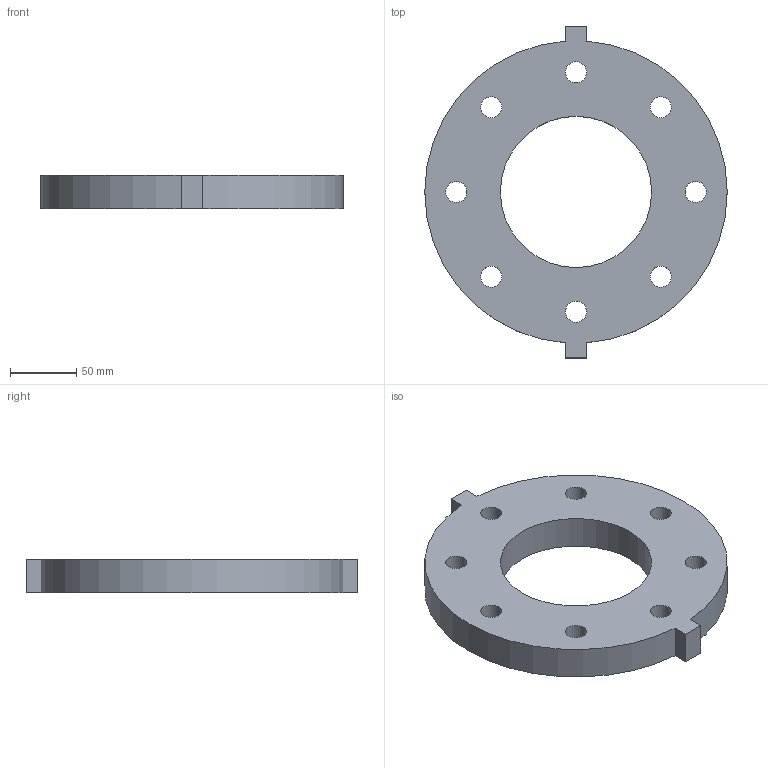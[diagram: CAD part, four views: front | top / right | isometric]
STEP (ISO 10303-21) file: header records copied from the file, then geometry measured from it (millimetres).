
FILE_DESCRIPTION(/* description */ ('VIC FLANGE ADAPTER STYLE 741 PN16 Flanges','CAx-IF Rec.Pracs.---Representation and Presentation of Product Manufacturing Information (PMI)---4.0---2014-10-13'),/* implementation_level */ '2;1');
FILE_NAME(/* name */ 'C:\Users\kkamble\AppData\Roaming\Autodesk\ApplicationPlugins\Back Up\Victaulic_IPS_Flange Adapter_PN16_Style 741 (OGSxFLG)\Victaulic_IPS_Flange Adapter_PN16_Style 741 (OGSxFLG)_4 (100).stp',/* time_stamp */ '2020-07-24T08:16:41+06:00',/* author */ ('jheald'),/* organization */ ('Victaulic'),/* preprocessor_version */ 'ST-DEVELOPER v17.2',/* originating_system */ 'Autodesk Inventor 2019',/* authorisation */ '');
FILE_SCHEMA (('AP242_MANAGED_MODEL_BASED_3D_ENGINEERING_MIM_LF { 1 0 10303 442 1 1 4 }'));
Length unit declared in the file: inch
Products named in the file (1): 741-04.0
Bounding box: 228.6 x 250.95 x 25.4 mm (x, y, z)
Volume: 750317.8 mm3; surface area: 97821.8 mm2
Topology: 1 solids, 1 shells, 19 faces, 51 edges, 34 vertices
Faces by surface type: cylinder 11, plane 8
Full cylindrical faces by diameter (mm): 16.002 x8, 114.3 x1
Entity records: 703 total; most frequent: DIRECTION 113, CARTESIAN_POINT 105, ORIENTED_EDGE 102, EDGE_CURVE 51, AXIS2_PLACEMENT_3D 42, EDGE_LOOP 37, VERTEX_POINT 34, LINE 29
